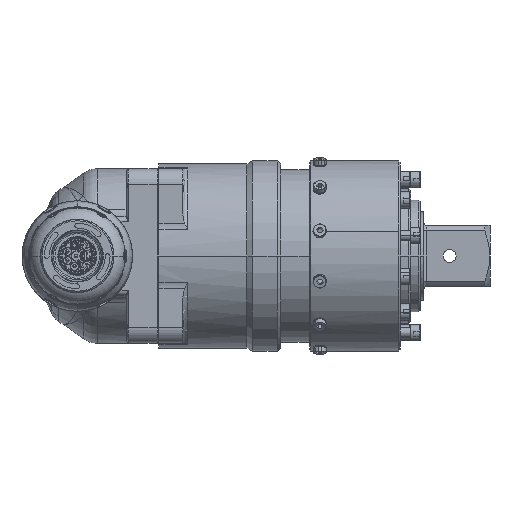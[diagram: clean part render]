
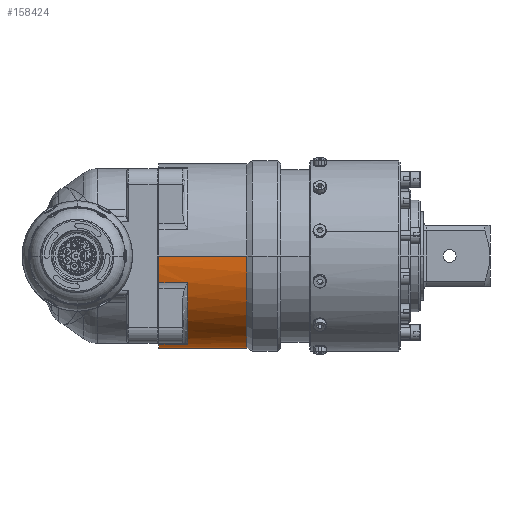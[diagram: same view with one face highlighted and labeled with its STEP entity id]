
A CAD part, left-side view. The second image highlights one B-rep face of the part: STEP entity #158424.
In plain terms, the highlighted cylindrical face has radius 57.5 mm (diameter 115 mm), a partial arc.
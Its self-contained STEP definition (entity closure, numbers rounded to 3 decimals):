
#157279=CARTESIAN_POINT('',(228.1,-50.95,0.));
#157280=DIRECTION('',(0.,-1.,0.));
#157281=DIRECTION('',(0.957,0.,-0.289));
#157282=AXIS2_PLACEMENT_3D('',#157279,#157280,#157281);
#157325=CARTESIAN_POINT('',(228.1,-50.95,0.));
#157326=DIRECTION('',(0.,-1.,0.));
#157327=DIRECTION('',(-1.,0.,0.));
#157328=AXIS2_PLACEMENT_3D('',#157325,#157326,#157327);
#157343=CARTESIAN_POINT('',(228.1,-50.95,0.));
#157344=DIRECTION('',(0.,-1.,0.));
#157345=DIRECTION('',(-0.289,0.,-0.957));
#157346=AXIS2_PLACEMENT_3D('',#157343,#157344,#157345);
#157507=CARTESIAN_POINT('',(228.1,-68.95,0.));
#157508=DIRECTION('',(0.,-1.,0.));
#157509=DIRECTION('',(0.289,0.,-0.957));
#157510=AXIS2_PLACEMENT_3D('',#157507,#157508,#157509);
#157512=CARTESIAN_POINT('',(283.143,-68.95,-16.63));
#157568=CARTESIAN_POINT('',(244.73,-68.95,-55.043));
#157570=CARTESIAN_POINT('',(228.1,-105.95,0.));
#157571=DIRECTION('',(0.,-1.,0.));
#157572=DIRECTION('',(-1.,0.,0.));
#157573=AXIS2_PLACEMENT_3D('',#157570,#157571,#157572);
#157575=DIRECTION('',(0.,-1.,0.));
#157576=VECTOR('',#157575,18.);
#157577=CARTESIAN_POINT('',(244.73,-50.95,-55.043));
#157578=LINE('',#157577,#157576);
#157608=DIRECTION('',(0.,1.,0.));
#157609=VECTOR('',#157608,18.);
#157610=CARTESIAN_POINT('',(283.143,-68.95,-16.63));
#157611=LINE('',#157610,#157609);
#157630=DIRECTION('',(0.,1.,0.));
#157631=VECTOR('',#157630,55.);
#157632=CARTESIAN_POINT('',(285.6,-105.95,0.));
#157633=LINE('',#157632,#157631);
#157639=DIRECTION('',(0.,1.,0.));
#157640=VECTOR('',#157639,55.);
#157641=CARTESIAN_POINT('',(170.6,-105.95,0.));
#157642=LINE('',#157641,#157640);
#157727=DIRECTION('',(0.,-1.,0.));
#157728=VECTOR('',#157727,18.);
#157729=CARTESIAN_POINT('',(173.057,-50.95,-16.63));
#157730=LINE('',#157729,#157728);
#157740=CARTESIAN_POINT('',(228.1,-68.95,0.));
#157741=DIRECTION('',(0.,-1.,0.));
#157742=DIRECTION('',(-0.957,0.,-0.289));
#157743=AXIS2_PLACEMENT_3D('',#157740,#157741,#157742);
#157745=CARTESIAN_POINT('',(211.47,-68.95,-55.043));
#157799=CARTESIAN_POINT('',(173.057,-68.95,-16.63));
#157805=DIRECTION('',(0.,1.,0.));
#157806=VECTOR('',#157805,18.);
#157807=CARTESIAN_POINT('',(211.47,-68.95,-55.043));
#157808=LINE('',#157807,#157806);
#157997=CARTESIAN_POINT('',(170.6,-105.95,0.));
#157998=CARTESIAN_POINT('',(170.6,-50.95,0.));
#157999=VERTEX_POINT('',#157997);
#158000=VERTEX_POINT('',#157998);
#158001=CARTESIAN_POINT('',(285.6,-105.95,0.));
#158002=CARTESIAN_POINT('',(285.6,-50.95,0.));
#158003=VERTEX_POINT('',#158001);
#158004=VERTEX_POINT('',#158002);
#158037=CARTESIAN_POINT('',(173.057,-50.95,-16.63));
#158038=VERTEX_POINT('',#158037);
#158039=CARTESIAN_POINT('',(211.47,-50.95,-55.043));
#158040=CARTESIAN_POINT('',(244.73,-50.95,-55.043));
#158041=VERTEX_POINT('',#158039);
#158042=VERTEX_POINT('',#158040);
#158043=CARTESIAN_POINT('',(283.143,-50.95,-16.63));
#158044=VERTEX_POINT('',#158043);
#158134=VERTEX_POINT('',#157568);
#158135=VERTEX_POINT('',#157512);
#158138=VERTEX_POINT('',#157799);
#158139=VERTEX_POINT('',#157745);
#158397=CARTESIAN_POINT('',(228.1,-47.15,0.));
#158398=DIRECTION('',(0.,-1.,0.));
#158399=DIRECTION('',(1.,0.,0.));
#158400=AXIS2_PLACEMENT_3D('',#158397,#158398,#158399);
#158401=CYLINDRICAL_SURFACE('',#158400,57.5);
#158402=ORIENTED_EDGE('',*,*,#158378,.F.);
#158404=ORIENTED_EDGE('',*,*,#158403,.F.);
#158405=ORIENTED_EDGE('',*,*,#158214,.F.);
#158407=ORIENTED_EDGE('',*,*,#158406,.F.);
#158409=ORIENTED_EDGE('',*,*,#158408,.F.);
#158411=ORIENTED_EDGE('',*,*,#158410,.F.);
#158412=ORIENTED_EDGE('',*,*,#158202,.F.);
#158414=ORIENTED_EDGE('',*,*,#158413,.F.);
#158416=ORIENTED_EDGE('',*,*,#158415,.T.);
#158418=ORIENTED_EDGE('',*,*,#158417,.T.);
#158419=ORIENTED_EDGE('',*,*,#158174,.F.);
#158421=ORIENTED_EDGE('',*,*,#158420,.F.);
#158422=EDGE_LOOP('',(#158402,#158404,#158405,#158407,#158409,#158411,#158412,
#158414,#158416,#158418,#158419,#158421));
#158423=FACE_OUTER_BOUND('',#158422,.F.);
#158424=ADVANCED_FACE('',(#158423),#158401,.T.);
#157283=CIRCLE('',#157282,57.5);
#157329=CIRCLE('',#157328,57.5);
#157347=CIRCLE('',#157346,57.5);
#157511=CIRCLE('',#157510,57.5);
#157574=CIRCLE('',#157573,57.5);
#157744=CIRCLE('',#157743,57.5);
#158174=EDGE_CURVE('',#158044,#158004,#157283,.T.);
#158202=EDGE_CURVE('',#158000,#158038,#157329,.T.);
#158214=EDGE_CURVE('',#158041,#158042,#157347,.T.);
#158378=EDGE_CURVE('',#158134,#158135,#157511,.T.);
#158403=EDGE_CURVE('',#158042,#158134,#157578,.T.);
#158406=EDGE_CURVE('',#158139,#158041,#157808,.T.);
#158408=EDGE_CURVE('',#158138,#158139,#157744,.T.);
#158410=EDGE_CURVE('',#158038,#158138,#157730,.T.);
#158413=EDGE_CURVE('',#157999,#158000,#157642,.T.);
#158415=EDGE_CURVE('',#157999,#158003,#157574,.T.);
#158417=EDGE_CURVE('',#158003,#158004,#157633,.T.);
#158420=EDGE_CURVE('',#158135,#158044,#157611,.T.);
